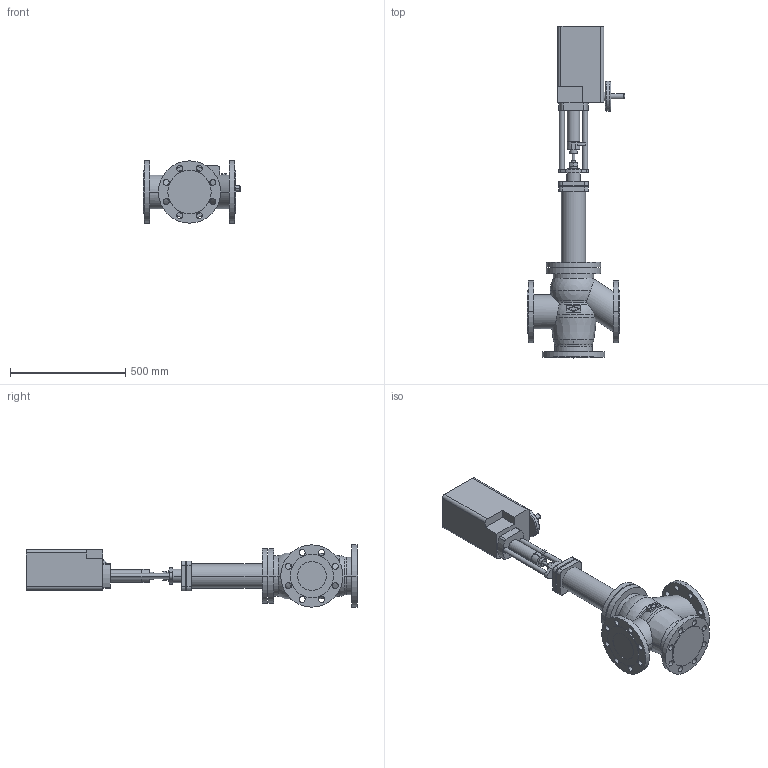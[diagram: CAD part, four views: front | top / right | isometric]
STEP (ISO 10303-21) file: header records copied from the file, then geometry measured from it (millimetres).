
FILE_DESCRIPTION(('OneSpaceDesigner STEP Export'),'2;1');
FILE_NAME('c000002468.stp','2007-01-25T 8:14:59',(''),(''),'OneSpace Designer STEP processor for AP214 (Solid Model)','OneSpace Designer 14.00B 27-May-2006 (C) CoCreate Software GmbH','');
FILE_SCHEMA(('AUTOMOTIVE_DESIGN { 1 0 10303 214 1 1 1 1 }'));
Length unit declared in the file: millimetre
Products named in the file (2): 1; 2
Bounding box: 421.6 x 1440.7 x 270 mm (x, y, z)
Volume: 34811340.4 mm3; surface area: 1381180 mm2
Topology: 2 solids, 2 shells, 262 faces, 667 edges, 438 vertices
Faces by surface type: cylinder 136, plane 102, torus 14, sphere 8, cone 2
Entity records: 7410 total; most frequent: CARTESIAN_POINT 1475, ORIENTED_EDGE 1318, DIRECTION 1101, EDGE_CURVE 659, VERTEX_POINT 438, AXIS2_PLACEMENT_3D 401, EDGE_LOOP 347, VECTOR 299
